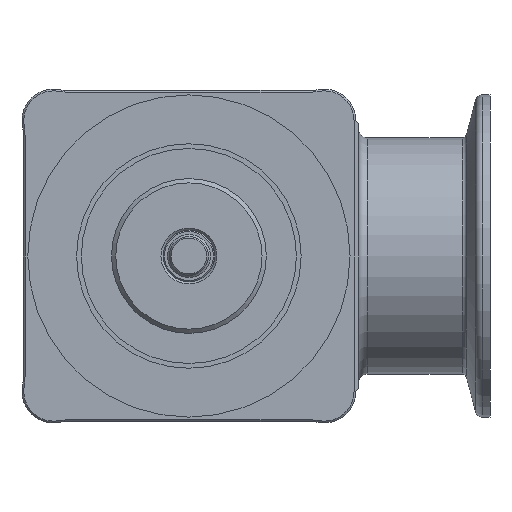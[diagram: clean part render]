
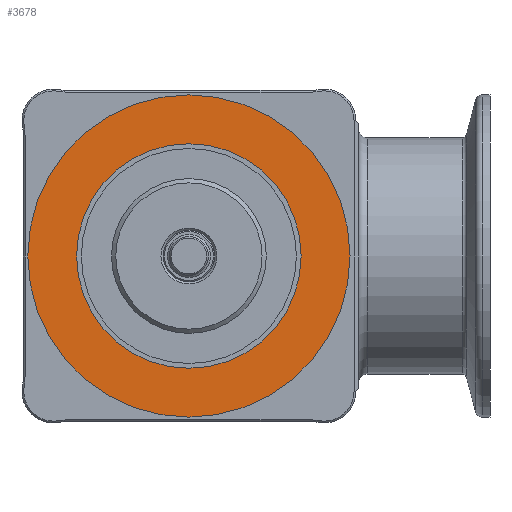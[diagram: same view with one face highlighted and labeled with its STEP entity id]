
A CAD part, front view. The second image highlights one B-rep face of the part: STEP entity #3678.
In plain terms, the highlighted planar face has unit normal (0, -1, 0).
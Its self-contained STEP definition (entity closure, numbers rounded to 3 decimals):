
#3169=FACE_BOUND('',#4962,.T.);
#3170=FACE_BOUND('',#4963,.T.);
#3678=ADVANCED_FACE('',(#3169,#3170),#4013,.F.);
#4013=PLANE('',#10191);
#4962=EDGE_LOOP('',(#7075));
#4963=EDGE_LOOP('',(#7076));
#7075=ORIENTED_EDGE('',*,*,#9089,.F.);
#7076=ORIENTED_EDGE('',*,*,#9088,.T.);
#8010=VERTEX_POINT('',#15869);
#8011=VERTEX_POINT('',#15872);
#9088=EDGE_CURVE('',#8010,#8010,#9442,.T.);
#9089=EDGE_CURVE('',#8011,#8011,#9443,.T.);
#9442=CIRCLE('',#10188,26.1);
#9443=CIRCLE('',#10190,37.46);
#10188=AXIS2_PLACEMENT_3D('',#15868,#12356,#12357);
#10190=AXIS2_PLACEMENT_3D('',#15871,#12360,#12361);
#10191=AXIS2_PLACEMENT_3D('',#15873,#12362,#12363);
#12356=DIRECTION('',(0.,1.,0.));
#12357=DIRECTION('',(-1.,0.,0.));
#12360=DIRECTION('',(0.,1.,0.));
#12361=DIRECTION('',(-1.,0.,0.));
#12362=DIRECTION('',(0.,1.,0.));
#12363=DIRECTION('',(-1.,0.,0.));
#15868=CARTESIAN_POINT('',(0.,-32.5,0.));
#15869=CARTESIAN_POINT('',(-26.1,-32.5,0.));
#15871=CARTESIAN_POINT('',(0.,-32.5,0.));
#15872=CARTESIAN_POINT('',(-37.46,-32.5,0.));
#15873=CARTESIAN_POINT('',(26.1,-32.5,0.));
